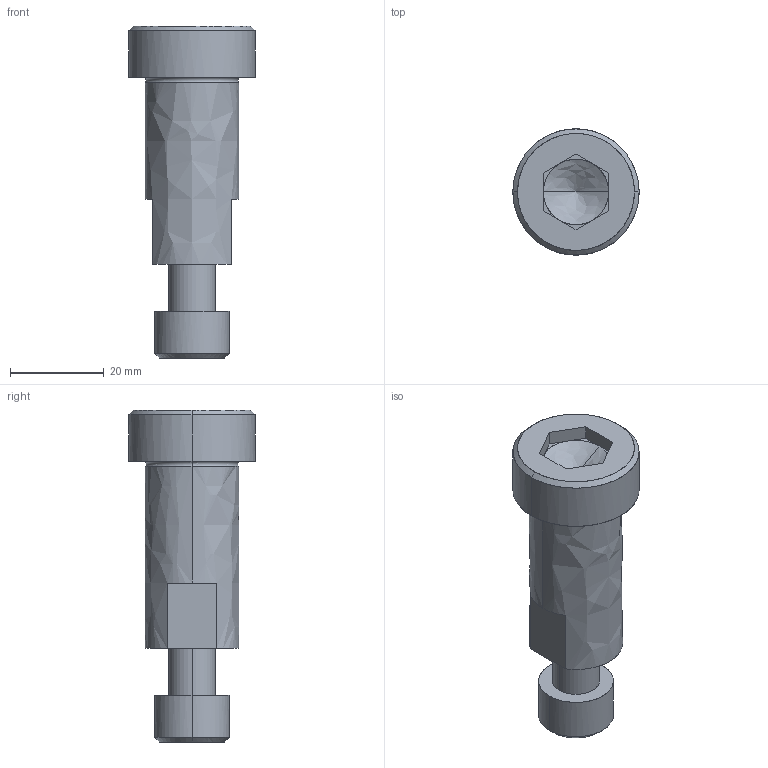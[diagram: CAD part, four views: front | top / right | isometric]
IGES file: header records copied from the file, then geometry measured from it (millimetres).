
Global section: file name: E:\UnigraphicsGraphicData\MISUMI_PRESS-PARTS\IGES\3d_sbt20-40_05080_r00.igs; native system: NX V5.0; preprocessor: UGS NX IGES V5.0; author: MISUMI; date: 20110105.162440; units: millimetre
Bounding box: 27 x 27 x 71 mm (x, y, z)
Surface area: 7322 mm2 (no closed solid volume)
Topology: 0 solids, 0 shells, 56 faces, 318 edges, 314 vertices
Faces by surface type: bspline 56
